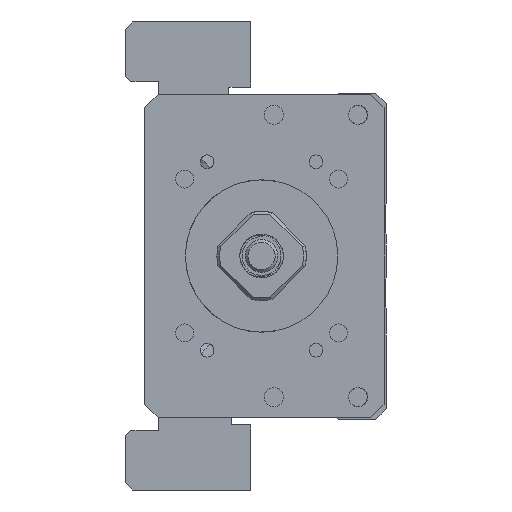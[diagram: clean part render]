
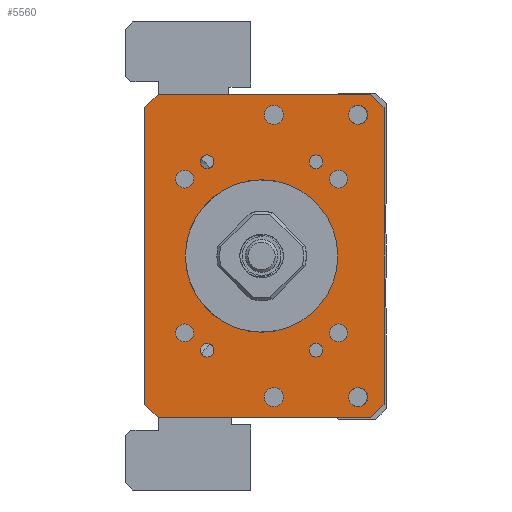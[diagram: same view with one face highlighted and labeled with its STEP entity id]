
A CAD part, left-side view. The second image highlights one B-rep face of the part: STEP entity #5560.
In plain terms, the highlighted planar face has unit normal (-1, 0, 0).
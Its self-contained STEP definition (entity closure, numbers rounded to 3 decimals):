
#4436=FACE_BOUND('',#7263,.T.);
#4437=FACE_BOUND('',#7264,.T.);
#4438=FACE_BOUND('',#7265,.T.);
#4439=FACE_BOUND('',#7266,.T.);
#4440=FACE_BOUND('',#7267,.T.);
#4441=FACE_BOUND('',#7268,.T.);
#4442=FACE_BOUND('',#7269,.T.);
#4443=FACE_BOUND('',#7270,.T.);
#4444=FACE_BOUND('',#7271,.T.);
#4445=FACE_BOUND('',#7272,.T.);
#4446=FACE_BOUND('',#7273,.T.);
#4447=FACE_BOUND('',#7274,.T.);
#4448=FACE_BOUND('',#7275,.T.);
#4449=FACE_BOUND('',#7276,.T.);
#4952=CIRCLE('',#15608,14.);
#4961=CIRCLE('',#15619,1.65);
#4962=CIRCLE('',#15620,1.65);
#4963=CIRCLE('',#15621,1.65);
#4964=CIRCLE('',#15622,1.65);
#4965=CIRCLE('',#15623,1.25);
#4966=CIRCLE('',#15624,1.75);
#4967=CIRCLE('',#15625,1.25);
#4968=CIRCLE('',#15626,1.75);
#4969=CIRCLE('',#15627,1.25);
#4970=CIRCLE('',#15628,1.75);
#4971=CIRCLE('',#15629,1.75);
#4972=CIRCLE('',#15630,1.25);
#5560=ADVANCED_FACE('',(#4436,#4437,#4438,#4439,#4440,#4441,#4442,#4443,
#4444,#4445,#4446,#4447,#4448,#4449),#6051,.F.);
#6051=PLANE('',#15631);
#7263=EDGE_LOOP('',(#9785));
#7264=EDGE_LOOP('',(#9786));
#7265=EDGE_LOOP('',(#9787));
#7266=EDGE_LOOP('',(#9788));
#7267=EDGE_LOOP('',(#9789));
#7268=EDGE_LOOP('',(#9790));
#7269=EDGE_LOOP('',(#9791));
#7270=EDGE_LOOP('',(#9792));
#7271=EDGE_LOOP('',(#9793));
#7272=EDGE_LOOP('',(#9794,#9795,#9796,#9797,#9798,#9799,#9800,#9801));
#7273=EDGE_LOOP('',(#9802));
#7274=EDGE_LOOP('',(#9803));
#7275=EDGE_LOOP('',(#9804));
#7276=EDGE_LOOP('',(#9805));
#9785=ORIENTED_EDGE('',*,*,#12651,.F.);
#9786=ORIENTED_EDGE('',*,*,#12652,.F.);
#9787=ORIENTED_EDGE('',*,*,#12653,.F.);
#9788=ORIENTED_EDGE('',*,*,#12654,.F.);
#9789=ORIENTED_EDGE('',*,*,#12655,.F.);
#9790=ORIENTED_EDGE('',*,*,#12656,.T.);
#9791=ORIENTED_EDGE('',*,*,#12657,.F.);
#9792=ORIENTED_EDGE('',*,*,#12658,.F.);
#9793=ORIENTED_EDGE('',*,*,#12659,.F.);
#9794=ORIENTED_EDGE('',*,*,#12648,.T.);
#9795=ORIENTED_EDGE('',*,*,#12660,.T.);
#9796=ORIENTED_EDGE('',*,*,#12661,.F.);
#9797=ORIENTED_EDGE('',*,*,#12662,.T.);
#9798=ORIENTED_EDGE('',*,*,#12663,.F.);
#9799=ORIENTED_EDGE('',*,*,#12664,.T.);
#9800=ORIENTED_EDGE('',*,*,#12665,.T.);
#9801=ORIENTED_EDGE('',*,*,#12666,.T.);
#9802=ORIENTED_EDGE('',*,*,#12667,.F.);
#9803=ORIENTED_EDGE('',*,*,#12668,.F.);
#9804=ORIENTED_EDGE('',*,*,#12669,.F.);
#9805=ORIENTED_EDGE('',*,*,#12628,.F.);
#11271=VERTEX_POINT('',#21927);
#11291=VERTEX_POINT('',#21987);
#11292=VERTEX_POINT('',#21989);
#11294=VERTEX_POINT('',#21995);
#11295=VERTEX_POINT('',#21997);
#11296=VERTEX_POINT('',#21999);
#11297=VERTEX_POINT('',#22001);
#11298=VERTEX_POINT('',#22003);
#11299=VERTEX_POINT('',#22005);
#11300=VERTEX_POINT('',#22007);
#11301=VERTEX_POINT('',#22009);
#11302=VERTEX_POINT('',#22011);
#11303=VERTEX_POINT('',#22013);
#11304=VERTEX_POINT('',#22015);
#11305=VERTEX_POINT('',#22017);
#11306=VERTEX_POINT('',#22019);
#11307=VERTEX_POINT('',#22021);
#11308=VERTEX_POINT('',#22023);
#11309=VERTEX_POINT('',#22026);
#11310=VERTEX_POINT('',#22028);
#11311=VERTEX_POINT('',#22030);
#12628=EDGE_CURVE('',#11271,#11271,#4952,.T.);
#12648=EDGE_CURVE('',#11292,#11291,#13760,.T.);
#12651=EDGE_CURVE('',#11294,#11294,#4961,.T.);
#12652=EDGE_CURVE('',#11295,#11295,#4962,.T.);
#12653=EDGE_CURVE('',#11296,#11296,#4963,.T.);
#12654=EDGE_CURVE('',#11297,#11297,#4964,.T.);
#12655=EDGE_CURVE('',#11298,#11298,#4965,.T.);
#12656=EDGE_CURVE('',#11299,#11299,#4966,.T.);
#12657=EDGE_CURVE('',#11300,#11300,#4967,.T.);
#12658=EDGE_CURVE('',#11301,#11301,#4968,.T.);
#12659=EDGE_CURVE('',#11302,#11302,#4969,.T.);
#12660=EDGE_CURVE('',#11291,#11303,#13762,.T.);
#12661=EDGE_CURVE('',#11304,#11303,#13763,.T.);
#12662=EDGE_CURVE('',#11304,#11305,#13764,.T.);
#12663=EDGE_CURVE('',#11306,#11305,#13765,.T.);
#12664=EDGE_CURVE('',#11306,#11307,#13766,.T.);
#12665=EDGE_CURVE('',#11307,#11308,#13767,.T.);
#12666=EDGE_CURVE('',#11308,#11292,#13768,.T.);
#12667=EDGE_CURVE('',#11309,#11309,#4970,.T.);
#12668=EDGE_CURVE('',#11310,#11310,#4971,.T.);
#12669=EDGE_CURVE('',#11311,#11311,#4972,.T.);
#13760=LINE('',#21988,#14673);
#13762=LINE('',#22012,#14675);
#13763=LINE('',#22014,#14676);
#13764=LINE('',#22016,#14677);
#13765=LINE('',#22018,#14678);
#13766=LINE('',#22020,#14679);
#13767=LINE('',#22022,#14680);
#13768=LINE('',#22024,#14681);
#14673=VECTOR('',#18267,1.);
#14675=VECTOR('',#18291,1.);
#14676=VECTOR('',#18292,1.);
#14677=VECTOR('',#18293,1.);
#14678=VECTOR('',#18294,1.);
#14679=VECTOR('',#18295,1.);
#14680=VECTOR('',#18296,1.);
#14681=VECTOR('',#18297,1.);
#15608=AXIS2_PLACEMENT_3D('',#21926,#18241,#18242);
#15619=AXIS2_PLACEMENT_3D('',#21994,#18273,#18274);
#15620=AXIS2_PLACEMENT_3D('',#21996,#18275,#18276);
#15621=AXIS2_PLACEMENT_3D('',#21998,#18277,#18278);
#15622=AXIS2_PLACEMENT_3D('',#22000,#18279,#18280);
#15623=AXIS2_PLACEMENT_3D('',#22002,#18281,#18282);
#15624=AXIS2_PLACEMENT_3D('',#22004,#18283,#18284);
#15625=AXIS2_PLACEMENT_3D('',#22006,#18285,#18286);
#15626=AXIS2_PLACEMENT_3D('',#22008,#18287,#18288);
#15627=AXIS2_PLACEMENT_3D('',#22010,#18289,#18290);
#15628=AXIS2_PLACEMENT_3D('',#22025,#18298,#18299);
#15629=AXIS2_PLACEMENT_3D('',#22027,#18300,#18301);
#15630=AXIS2_PLACEMENT_3D('',#22029,#18302,#18303);
#15631=AXIS2_PLACEMENT_3D('',#22031,#18304,#18305);
#18241=DIRECTION('',(-1.,0.,0.));
#18242=DIRECTION('',(0.,1.,0.));
#18267=DIRECTION('',(0.,0.,-1.));
#18273=DIRECTION('',(-1.,0.,0.));
#18274=DIRECTION('',(0.,0.,1.));
#18275=DIRECTION('',(-1.,0.,0.));
#18276=DIRECTION('',(0.,0.,1.));
#18277=DIRECTION('',(-1.,0.,0.));
#18278=DIRECTION('',(0.,0.,1.));
#18279=DIRECTION('',(-1.,0.,0.));
#18280=DIRECTION('',(0.,0.,1.));
#18281=DIRECTION('',(-1.,0.,0.));
#18282=DIRECTION('',(0.,1.,0.));
#18283=DIRECTION('',(1.,0.,0.));
#18284=DIRECTION('',(0.,0.,1.));
#18285=DIRECTION('',(-1.,0.,0.));
#18286=DIRECTION('',(0.,1.,0.));
#18287=DIRECTION('',(-1.,0.,0.));
#18288=DIRECTION('',(0.,0.,1.));
#18289=DIRECTION('',(-1.,0.,0.));
#18290=DIRECTION('',(0.,1.,0.));
#18291=DIRECTION('',(0.,-0.707,-0.707));
#18292=DIRECTION('',(0.,1.,0.));
#18293=DIRECTION('',(0.,-0.707,0.707));
#18294=DIRECTION('',(0.,0.,-1.));
#18295=DIRECTION('',(0.,0.707,0.707));
#18296=DIRECTION('',(0.,1.,0.));
#18297=DIRECTION('',(0.,0.707,-0.707));
#18298=DIRECTION('',(-1.,0.,0.));
#18299=DIRECTION('',(0.,0.,1.));
#18300=DIRECTION('',(-1.,0.,0.));
#18301=DIRECTION('',(0.,0.,1.));
#18302=DIRECTION('',(-1.,0.,0.));
#18303=DIRECTION('',(0.,1.,0.));
#18304=DIRECTION('',(1.,0.,0.));
#18305=DIRECTION('',(0.,1.,0.));
#21926=CARTESIAN_POINT('',(-211.,0.,-500.));
#21927=CARTESIAN_POINT('',(-211.,14.,-500.));
#21987=CARTESIAN_POINT('',(-211.,21.499,-527.25));
#21988=CARTESIAN_POINT('',(-211.,21.499,-470.25));
#21989=CARTESIAN_POINT('',(-211.,21.499,-472.75));
#21994=CARTESIAN_POINT('',(-211.,14.142,-485.858));
#21995=CARTESIAN_POINT('',(-211.,14.142,-484.208));
#21996=CARTESIAN_POINT('',(-211.,-14.142,-485.858));
#21997=CARTESIAN_POINT('',(-211.,-14.142,-484.208));
#21998=CARTESIAN_POINT('',(-211.,14.142,-514.142));
#21999=CARTESIAN_POINT('',(-211.,14.142,-512.492));
#22000=CARTESIAN_POINT('',(-211.,-14.142,-514.142));
#22001=CARTESIAN_POINT('',(-211.,-14.142,-512.492));
#22002=CARTESIAN_POINT('',(-211.,-10.,-517.321));
#22003=CARTESIAN_POINT('',(-211.,-8.75,-517.321));
#22004=CARTESIAN_POINT('',(-211.,-2.25,-525.936));
#22005=CARTESIAN_POINT('',(-211.,-2.25,-524.186));
#22006=CARTESIAN_POINT('',(-211.,10.,-482.679));
#22007=CARTESIAN_POINT('',(-211.,11.25,-482.679));
#22008=CARTESIAN_POINT('',(-211.,-2.25,-474.064));
#22009=CARTESIAN_POINT('',(-211.,-2.25,-472.314));
#22010=CARTESIAN_POINT('',(-211.,10.,-517.321));
#22011=CARTESIAN_POINT('',(-211.,11.25,-517.321));
#22012=CARTESIAN_POINT('',(-211.,18.999,-529.75));
#22013=CARTESIAN_POINT('',(-211.,18.999,-529.75));
#22014=CARTESIAN_POINT('',(-211.,-22.501,-529.75));
#22015=CARTESIAN_POINT('',(-211.,-20.001,-529.75));
#22016=CARTESIAN_POINT('',(-211.,-22.501,-527.25));
#22017=CARTESIAN_POINT('',(-211.,-22.501,-527.25));
#22018=CARTESIAN_POINT('',(-211.,-22.501,-470.25));
#22019=CARTESIAN_POINT('',(-211.,-22.501,-472.75));
#22020=CARTESIAN_POINT('',(-211.,-22.501,-472.75));
#22021=CARTESIAN_POINT('',(-211.,-20.001,-470.25));
#22022=CARTESIAN_POINT('',(-211.,-22.501,-470.25));
#22023=CARTESIAN_POINT('',(-211.,18.999,-470.25));
#22024=CARTESIAN_POINT('',(-211.,18.999,-470.25));
#22025=CARTESIAN_POINT('',(-211.,-17.75,-474.064));
#22026=CARTESIAN_POINT('',(-211.,-17.75,-472.314));
#22027=CARTESIAN_POINT('',(-211.,-17.75,-525.936));
#22028=CARTESIAN_POINT('',(-211.,-17.75,-524.186));
#22029=CARTESIAN_POINT('',(-211.,-10.,-482.679));
#22030=CARTESIAN_POINT('',(-211.,-8.75,-482.679));
#22031=CARTESIAN_POINT('',(-211.,-22.501,-470.25));
